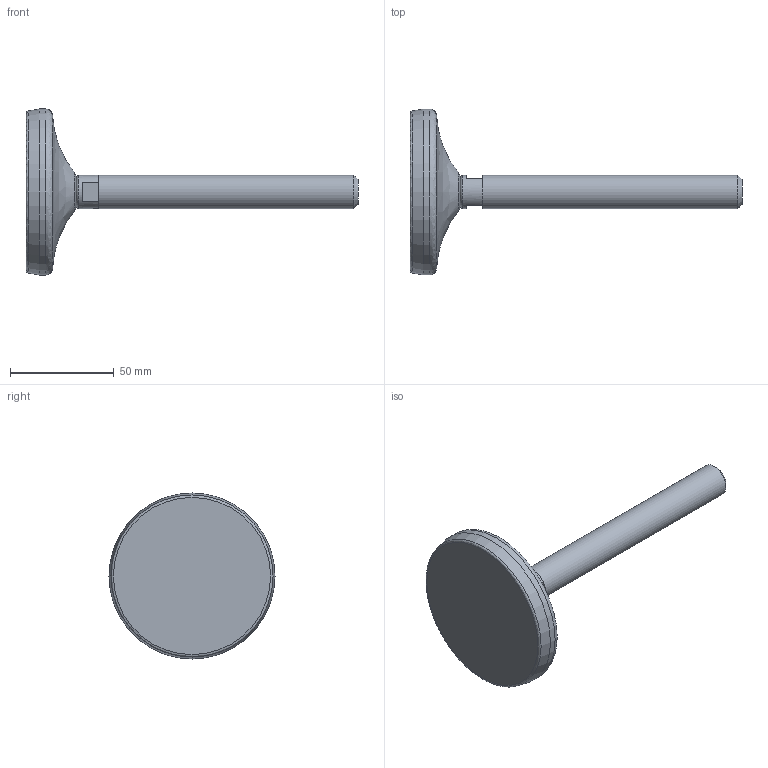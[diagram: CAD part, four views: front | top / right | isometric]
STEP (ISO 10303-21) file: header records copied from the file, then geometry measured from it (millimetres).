
FILE_DESCRIPTION(('STEP AP203'),'2;1');
FILE_NAME('25024.stp','2014-07-21T10:28:38',(''),(''),'2008.1.107','THINKDESIGN','');
FILE_SCHEMA(('CONFIG_CONTROL_DESIGN'));
Length unit declared in the file: millimetre
Bounding box: 160 x 80 x 80 mm (x, y, z)
Volume: 103216.3 mm3; surface area: 20365.5 mm2
Topology: 3 solids, 3 shells, 20 faces, 47 edges, 33 vertices
Faces by surface type: plane 10, bspline 7, cylinder 3
Full cylindrical faces by diameter (mm): 16 x2, 80 x1
Entity records: 1164 total; most frequent: CARTESIAN_POINT 596, DIRECTION 107, ORIENTED_EDGE 94, AXIS2_PLACEMENT_3D 47, EDGE_CURVE 47, CIRCLE 34, VERTEX_POINT 33, EDGE_LOOP 20
